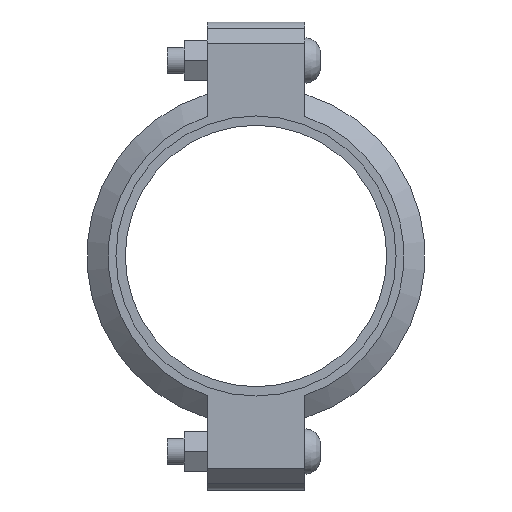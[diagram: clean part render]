
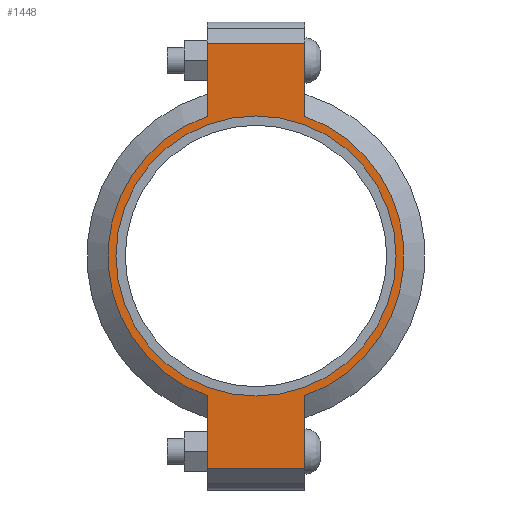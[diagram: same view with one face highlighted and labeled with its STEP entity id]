
A CAD part, left-side view. The second image highlights one B-rep face of the part: STEP entity #1448.
In plain terms, the highlighted planar face has unit normal (-1, 0, 0) as drawn and (0, 0, 1) by its records, which use the part's own axes.
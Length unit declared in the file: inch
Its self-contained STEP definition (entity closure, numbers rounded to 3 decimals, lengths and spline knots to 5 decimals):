
#128=LINE('',#2493,#219);
#136=LINE('',#2529,#227);
#143=LINE('',#2550,#234);
#152=LINE('',#2582,#243);
#153=LINE('',#2586,#244);
#154=LINE('',#2588,#245);
#219=VECTOR('',#2019,0.3937);
#227=VECTOR('',#2035,0.3937);
#234=VECTOR('',#2054,0.3937);
#243=VECTOR('',#2079,0.3937);
#244=VECTOR('',#2084,0.3937);
#245=VECTOR('',#2085,0.3937);
#297=FACE_BOUND('',#457,.T.);
#361=FACE_OUTER_BOUND('',#456,.T.);
#456=EDGE_LOOP('',(#1183,#1184,#1185,#1186,#1187,#1188,#1189,#1190));
#457=EDGE_LOOP('',(#1191));
#554=CIRCLE('',#1691,3.5);
#555=CIRCLE('',#1692,3.5);
#556=CIRCLE('',#1693,3.3125);
#659=VERTEX_POINT('',#2490);
#660=VERTEX_POINT('',#2492);
#671=VERTEX_POINT('',#2524);
#672=VERTEX_POINT('',#2528);
#679=VERTEX_POINT('',#2547);
#680=VERTEX_POINT('',#2549);
#690=VERTEX_POINT('',#2585);
#691=VERTEX_POINT('',#2587);
#692=VERTEX_POINT('',#2590);
#823=EDGE_CURVE('',#660,#659,#128,.T.);
#837=EDGE_CURVE('',#672,#671,#136,.T.);
#847=EDGE_CURVE('',#680,#679,#143,.T.);
#862=EDGE_CURVE('',#672,#659,#152,.T.);
#863=EDGE_CURVE('',#671,#680,#554,.T.);
#864=EDGE_CURVE('',#690,#679,#153,.T.);
#865=EDGE_CURVE('',#690,#691,#154,.T.);
#866=EDGE_CURVE('',#691,#660,#555,.T.);
#867=EDGE_CURVE('',#692,#692,#556,.T.);
#1183=ORIENTED_EDGE('',*,*,#862,.F.);
#1184=ORIENTED_EDGE('',*,*,#837,.T.);
#1185=ORIENTED_EDGE('',*,*,#863,.T.);
#1186=ORIENTED_EDGE('',*,*,#847,.T.);
#1187=ORIENTED_EDGE('',*,*,#864,.F.);
#1188=ORIENTED_EDGE('',*,*,#865,.T.);
#1189=ORIENTED_EDGE('',*,*,#866,.T.);
#1190=ORIENTED_EDGE('',*,*,#823,.T.);
#1191=ORIENTED_EDGE('',*,*,#867,.T.);
#1302=PLANE('',#1690);
#1448=ADVANCED_FACE('',(#361,#297),#1302,.T.);
#1690=AXIS2_PLACEMENT_3D('',#2583,#2080,#2081);
#1691=AXIS2_PLACEMENT_3D('',#2584,#2082,#2083);
#1692=AXIS2_PLACEMENT_3D('',#2589,#2086,#2087);
#1693=AXIS2_PLACEMENT_3D('',#2591,#2088,#2089);
#2019=DIRECTION('',(-1.,0.,0.));
#2035=DIRECTION('',(1.,0.,0.));
#2054=DIRECTION('',(1.,0.,0.));
#2079=DIRECTION('',(0.,1.,0.));
#2080=DIRECTION('center_axis',(0.,0.,1.));
#2081=DIRECTION('ref_axis',(1.,0.,0.));
#2082=DIRECTION('center_axis',(0.,0.,1.));
#2083=DIRECTION('ref_axis',(-1.,0.,0.));
#2084=DIRECTION('',(0.,-1.,0.));
#2085=DIRECTION('',(-1.,0.,0.));
#2086=DIRECTION('center_axis',(0.,0.,1.));
#2087=DIRECTION('ref_axis',(-1.,0.,0.));
#2088=DIRECTION('center_axis',(0.,0.,-1.));
#2089=DIRECTION('ref_axis',(-1.,0.,0.));
#2490=CARTESIAN_POINT('',(-5.035,1.156,1.065));
#2492=CARTESIAN_POINT('',(-3.30358,1.156,1.065));
#2493=CARTESIAN_POINT('',(-5.535,1.156,1.065));
#2524=CARTESIAN_POINT('',(-3.30358,-1.156,1.065));
#2528=CARTESIAN_POINT('',(-5.035,-1.156,1.065));
#2529=CARTESIAN_POINT('',(5.535,-1.156,1.065));
#2547=CARTESIAN_POINT('',(5.035,-1.156,1.065));
#2549=CARTESIAN_POINT('',(3.30358,-1.156,1.065));
#2550=CARTESIAN_POINT('',(5.535,-1.156,1.065));
#2582=CARTESIAN_POINT('',(-5.035,0.578,1.065));
#2583=CARTESIAN_POINT('Origin',(0.,0.,1.065));
#2584=CARTESIAN_POINT('Origin',(0.,0.,1.065));
#2585=CARTESIAN_POINT('',(5.035,1.156,1.065));
#2586=CARTESIAN_POINT('',(5.035,-0.578,1.065));
#2587=CARTESIAN_POINT('',(3.30358,1.156,1.065));
#2588=CARTESIAN_POINT('',(-5.535,1.156,1.065));
#2589=CARTESIAN_POINT('Origin',(0.,0.,1.065));
#2590=CARTESIAN_POINT('',(3.3125,0.,1.065));
#2591=CARTESIAN_POINT('Origin',(0.,0.,1.065));
